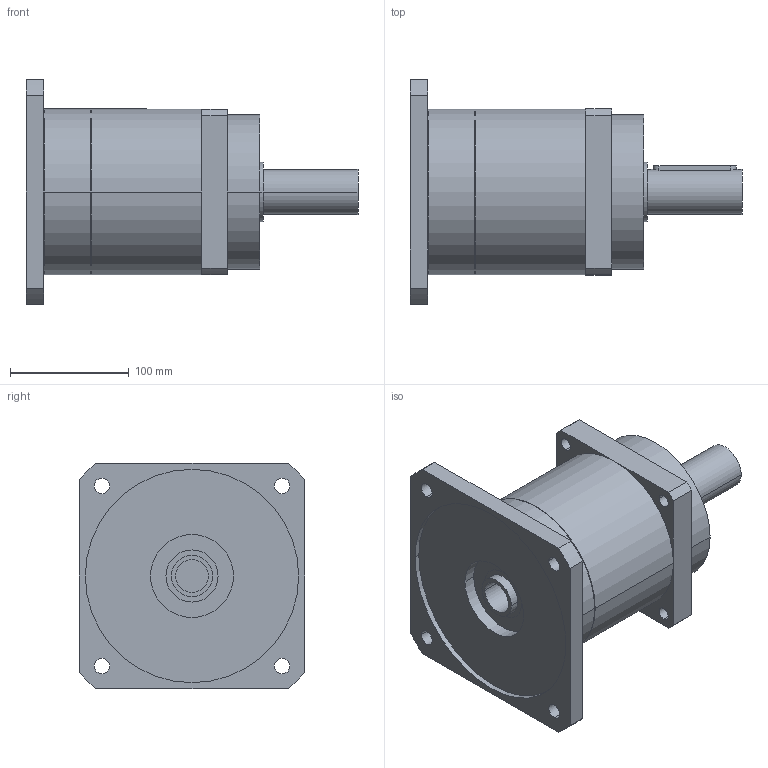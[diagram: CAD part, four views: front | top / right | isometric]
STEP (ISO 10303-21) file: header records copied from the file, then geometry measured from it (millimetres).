
FILE_DESCRIPTION(('CoCreate Modeling STEP Export'),'2;1');
FILE_NAME('GPR150_ig-3-4-5-7_38_B5_28_P06.stp','2014-08-19T16:42:42',(''),(''),'CoCreate Modeling STEP processor for AP214 (Solid Model)','CoCreate Modeling 16.00C 25-Feb-2009 (C) Parametric Technology GmbH','');
FILE_SCHEMA(('AUTOMOTIVE_DESIGN { 1 0 10303 214 1 1 1 1 }'));
Length unit declared in the file: millimetre
Products named in the file (2): GPR150_ig-3-4-5-7_38_B5_28_P06
Assembly tree (1 placements, depth 2):
  GPR150_ig-3-4-5-7_38_B5_28_P06
    GPR150_ig-3-4-5-7_38_B5_28_P06
Bounding box: 280 x 190 x 190 mm (x, y, z)
Volume: 3257857.2 mm3; surface area: 199798.6 mm2
Topology: 1 solids, 1 shells, 81 faces, 220 edges, 150 vertices
Faces by surface type: cylinder 48, plane 27, cone 6
Entity records: 2325 total; most frequent: ORIENTED_EDGE 436, CARTESIAN_POINT 431, DIRECTION 330, EDGE_CURVE 218, VERTEX_POINT 150, AXIS2_PLACEMENT_3D 121, EDGE_LOOP 108, VECTOR 88
